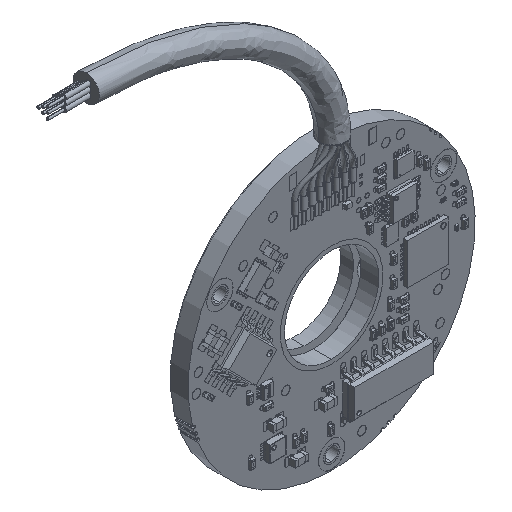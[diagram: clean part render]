
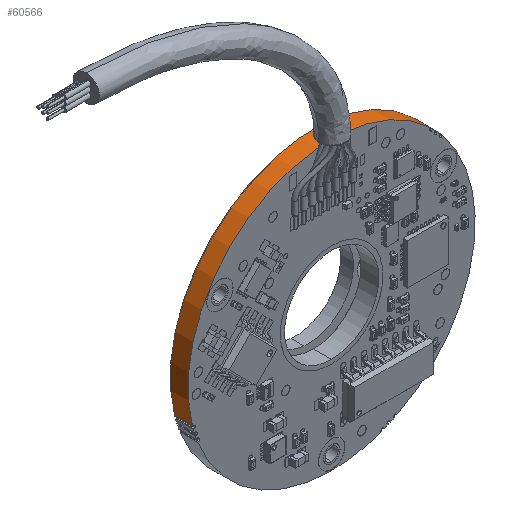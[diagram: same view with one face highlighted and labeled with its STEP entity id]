
A CAD part, isometric view. The second image highlights one B-rep face of the part: STEP entity #60566.
In plain terms, the highlighted cylindrical face has radius 17.5 mm (diameter 35 mm), a partial arc.
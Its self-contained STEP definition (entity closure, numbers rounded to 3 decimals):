
#10269 = DIRECTION ( 'NONE',  ( 0., 1., 0. ) ) ;
#12500 = LINE ( 'NONE', #271733, #307673 ) ;
#26142 = AXIS2_PLACEMENT_3D ( 'NONE', #74027, #178347, #219829 ) ;
#26184 = DIRECTION ( 'NONE',  ( 0., 0., 1. ) ) ;
#41057 = DIRECTION ( 'NONE',  ( 0., 0., 1. ) ) ;
#45187 = CYLINDRICAL_SURFACE ( 'NONE', #26142, 17.5 ) ;
#55816 = ORIENTED_EDGE ( 'NONE', *, *, #155704, .F. ) ;
#59312 = EDGE_CURVE ( 'NONE', #216442, #285311, #117498, .T. ) ;
#60566 = ADVANCED_FACE ( 'NONE', ( #92085 ), #45187, .T. ) ;
#74027 = CARTESIAN_POINT ( 'NONE',  ( 0., 2.17, 0. ) ) ;
#74477 = AXIS2_PLACEMENT_3D ( 'NONE', #346715, #375469, #26184 ) ;
#92085 = FACE_OUTER_BOUND ( 'NONE', #191316, .T. ) ;
#102887 = DIRECTION ( 'NONE',  ( 0., -1., 0. ) ) ;
#113619 = VECTOR ( 'NONE', #255328, 1000. ) ;
#117498 = CIRCLE ( 'NONE', #74477, 17.5 ) ;
#141904 = CARTESIAN_POINT ( 'NONE',  ( -16.943, 0., -4.379 ) ) ;
#154489 = CARTESIAN_POINT ( 'NONE',  ( 0., 0., 0. ) ) ;
#155704 = EDGE_CURVE ( 'NONE', #285311, #274092, #12500, .T. ) ;
#173216 = ORIENTED_EDGE ( 'NONE', *, *, #303034, .T. ) ;
#178347 = DIRECTION ( 'NONE',  ( 0., -1., 0. ) ) ;
#191316 = EDGE_LOOP ( 'NONE', ( #173216, #55816, #348604, #199578 ) ) ;
#195752 = VERTEX_POINT ( 'NONE', #141904 ) ;
#199578 = ORIENTED_EDGE ( 'NONE', *, *, #352657, .T. ) ;
#201568 = LINE ( 'NONE', #316768, #113619 ) ;
#216442 = VERTEX_POINT ( 'NONE', #312085 ) ;
#219829 = DIRECTION ( 'NONE',  ( 0., 0., -1. ) ) ;
#237555 = CARTESIAN_POINT ( 'NONE',  ( 12.086, 0., 12.656 ) ) ;
#255328 = DIRECTION ( 'NONE',  ( 0., -1., 0. ) ) ;
#263660 = AXIS2_PLACEMENT_3D ( 'NONE', #154489, #10269, #41057 ) ;
#271594 = CARTESIAN_POINT ( 'NONE',  ( 12.086, 2.17, 12.656 ) ) ;
#271733 = CARTESIAN_POINT ( 'NONE',  ( 12.086, 2.201, 12.656 ) ) ;
#274092 = VERTEX_POINT ( 'NONE', #237555 ) ;
#285311 = VERTEX_POINT ( 'NONE', #271594 ) ;
#303034 = EDGE_CURVE ( 'NONE', #195752, #274092, #368087, .T. ) ;
#307673 = VECTOR ( 'NONE', #102887, 1000. ) ;
#312085 = CARTESIAN_POINT ( 'NONE',  ( -16.943, 2.17, -4.379 ) ) ;
#316768 = CARTESIAN_POINT ( 'NONE',  ( -16.943, 2.201, -4.379 ) ) ;
#346715 = CARTESIAN_POINT ( 'NONE',  ( 0., 2.17, 0. ) ) ;
#348604 = ORIENTED_EDGE ( 'NONE', *, *, #59312, .F. ) ;
#352657 = EDGE_CURVE ( 'NONE', #216442, #195752, #201568, .T. ) ;
#368087 = CIRCLE ( 'NONE', #263660, 17.5 ) ;
#375469 = DIRECTION ( 'NONE',  ( 0., 1., 0. ) ) ;
